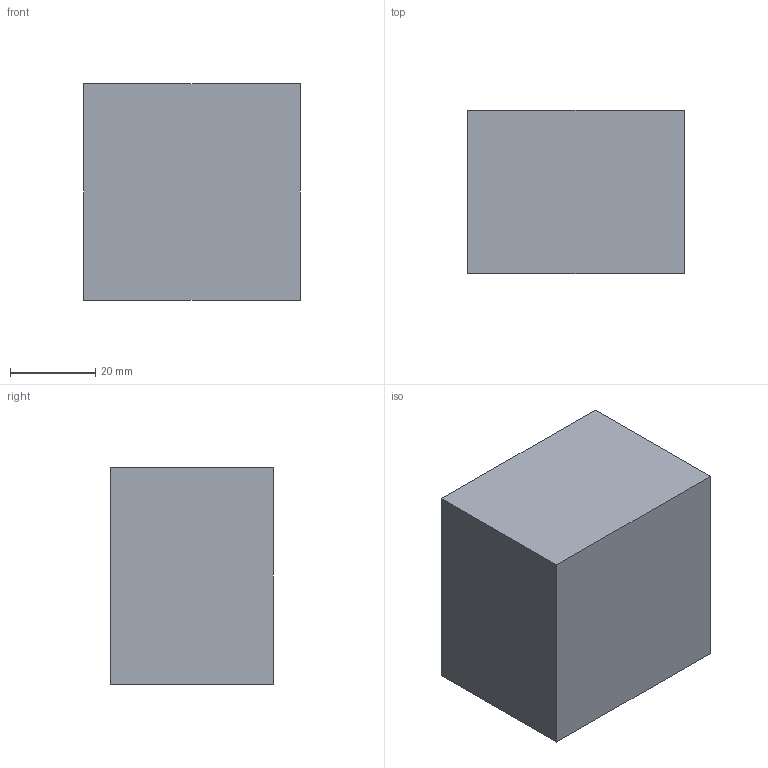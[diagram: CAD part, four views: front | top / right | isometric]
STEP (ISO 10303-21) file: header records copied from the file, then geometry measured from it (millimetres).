
FILE_DESCRIPTION (( 'STEP AP203' ), '1' );
FILE_NAME ('SmartLock_Captive_Plunger_Pocket.STEP', '2010-02-08T20:54:54', ( ' ' ), ( ' ' ), 'SwSTEP 2.0', 'SolidWorks 2010', '' );
FILE_SCHEMA (( 'CONFIG_CONTROL_DESIGN' ));
Length unit declared in the file: inch
Products named in the file (1): SmartLock_Captive_Plunger_Pocket
Bounding box: 50.8 x 38.1 x 50.8 mm (x, y, z)
Volume: 95699.4 mm3; surface area: 13714.1 mm2
Topology: 1 solids, 1 shells, 19 faces, 44 edges, 26 vertices
Faces by surface type: plane 7, cone 6, cylinder 6
Entity records: 613 total; most frequent: CARTESIAN_POINT 102, DIRECTION 96, ORIENTED_EDGE 84, EDGE_CURVE 42, AXIS2_PLACEMENT_3D 36, VERTEX_POINT 26, VECTOR 24, LINE 24
